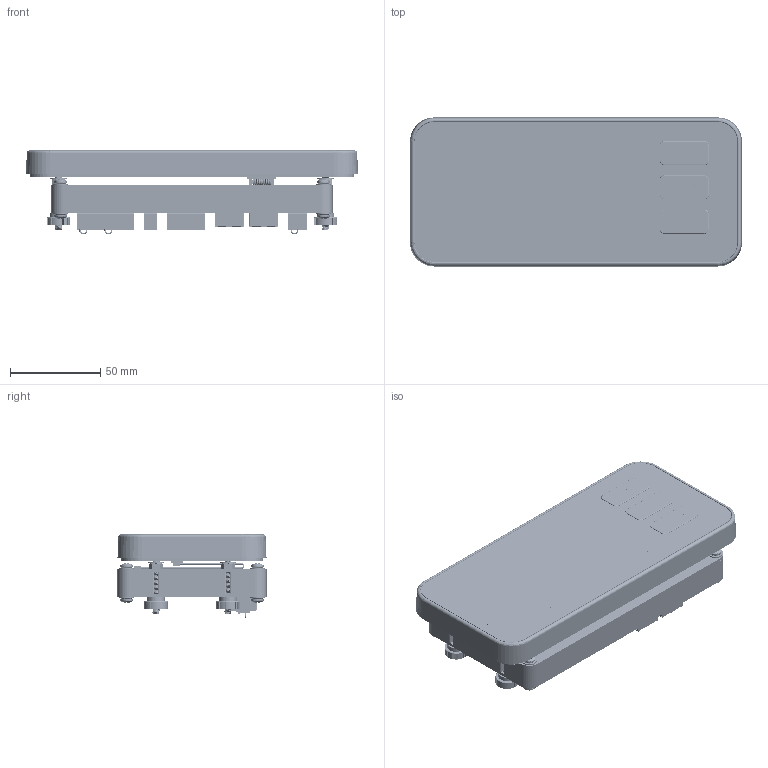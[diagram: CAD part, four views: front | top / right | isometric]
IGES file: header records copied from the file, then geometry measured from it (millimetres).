
Start section: SolidWorks IGES file using analytic representation for surfaces
Global section: file name: C:\0_Work\SolidWorks\HI 6501 Series\HI 6501-P-WP-ANA.IGS; native system: SolidWorks 2023; preprocessor: SolidWorks 2023; author: vach01; date: 240617.061607; units: inch
Bounding box: 184.4 x 82.8 x 46.71 mm (x, y, z)
Surface area: 323873.5 mm2 (no closed solid volume)
Topology: 0 solids, 0 shells, 27607 faces, 216323 edges, 216077 vertices
Faces by surface type: bspline 21403, revolution 6204
